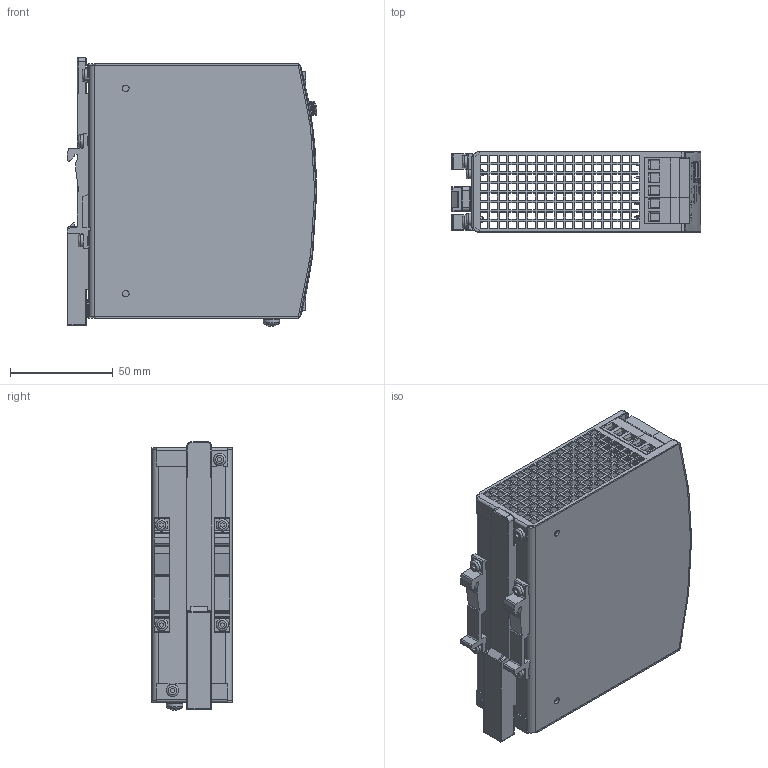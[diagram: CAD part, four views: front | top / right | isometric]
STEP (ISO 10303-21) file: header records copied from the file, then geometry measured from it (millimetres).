
FILE_DESCRIPTION(/* description */ (''),/* implementation_level */ '2;1');
FILE_NAME(/* name */ 'C:\Vault-Work\Vault\Designs\MARKETING\Internet\400-449\410.00\md3_CP10_241.stp',/* time_stamp */ '2021-07-22T11:35:20+02:00',/* author */ ('rahns'),/* organization */ (''),/* preprocessor_version */ 'ST-DEVELOPER v18.1',/* originating_system */ 'Autodesk Inventor 2020',/* authorisation */ '');
FILE_SCHEMA (('AUTOMOTIVE_DESIGN { 1 0 10303 214 3 1 1 }'));
Products named in the file (14): 410.00; HOUSING BODY 410.00; HOUSING COVER 410.00; FRONTFOIL 410.00; MKT_SLIDER; MKT_T HOLDER1; MKT_SCREW 3x6; MKT_SCREW 4x8; MKT_WASHER 4; MKT_LP3BK-D2; MKT_LP2BK-D2; Metz_Connect_SR21502HBNC; MKT_LED GN; MKT_POTI COVER
Assembly tree (20 placements, depth 2):
  410.00
    HOUSING BODY 410.00
    HOUSING COVER 410.00
    FRONTFOIL 410.00
    MKT_SLIDER
    MKT_SCREW 3x6  x6
    MKT_T HOLDER1  x2
    MKT_SCREW 4x8
    MKT_WASHER 4
    MKT_LP3BK-D2  x2
    MKT_LP2BK-D2
    Metz_Connect_SR21502HBNC
    MKT_LED GN
    MKT_POTI COVER
Bounding box: 121.72 x 39 x 130.77 mm (x, y, z)
Volume: 79928.1 mm3; surface area: 107290.8 mm2
Topology: 21 solids, 21 shells, 2513 faces, 7039 edges, 4670 vertices
Faces by surface type: plane 2009, cylinder 248, bspline 194, torus 25, cone 24, sphere 13
Full cylindrical faces by diameter (mm): 0.05 x2, 0.3 x4, 2.45 x2, 2.7 x1, 3 x6, 3.1 x4, 3.2 x3, 3.5 x1, 3.621 x1, 4 x1, 4.355 x1, 4.5 x1, 4.6 x1, 5.15 x8, 6 x6
Entity records: 81783 total; most frequent: CARTESIAN_POINT 21992, ORIENTED_EDGE 12760, DIRECTION 10815, EDGE_CURVE 6380, LINE 5229, VECTOR 5229, VERTEX_POINT 4234, EDGE_LOOP 2938
